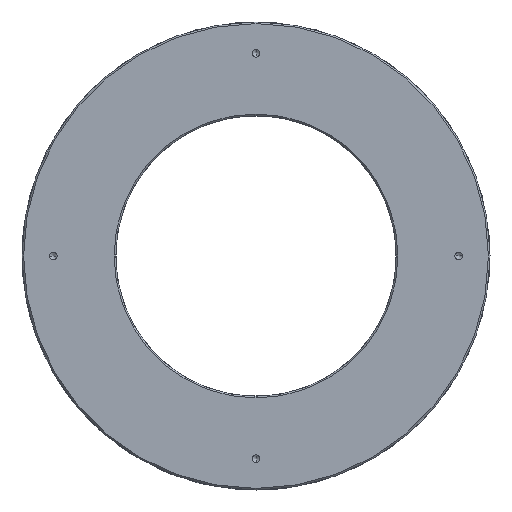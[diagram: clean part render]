
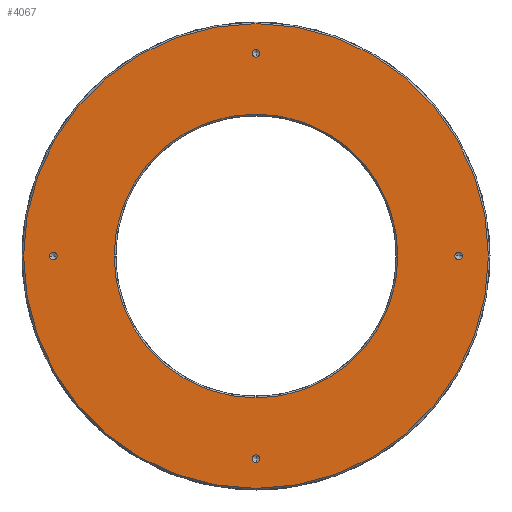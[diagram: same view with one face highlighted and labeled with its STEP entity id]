
A CAD part, front view. The second image highlights one B-rep face of the part: STEP entity #4067.
In plain terms, the highlighted planar face has unit normal (0, -1, 0).
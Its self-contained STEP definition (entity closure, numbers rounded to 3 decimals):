
#39 = EDGE_LOOP ( 'NONE', ( #788, #2501 ) ) ;
#128 = AXIS2_PLACEMENT_3D ( 'NONE', #1806, #1409, #2720 ) ;
#233 = CIRCLE ( 'NONE', #4672, 1.25 ) ;
#314 = CIRCLE ( 'NONE', #4387, 1.25 ) ;
#333 = DIRECTION ( 'NONE',  ( 0., -1., 0. ) ) ;
#461 = CIRCLE ( 'NONE', #1192, 1.25 ) ;
#504 = CIRCLE ( 'NONE', #128, 74.5 ) ;
#539 = VERTEX_POINT ( 'NONE', #4813 ) ;
#549 = PLANE ( 'NONE',  #3408 ) ;
#597 = DIRECTION ( 'NONE',  ( 0., -1., 0. ) ) ;
#751 = DIRECTION ( 'NONE',  ( 1., 0., 0. ) ) ;
#771 = EDGE_CURVE ( 'NONE', #4175, #774, #1448, .T. ) ;
#774 = VERTEX_POINT ( 'NONE', #5110 ) ;
#788 = ORIENTED_EDGE ( 'NONE', *, *, #2898, .F. ) ;
#931 = CARTESIAN_POINT ( 'NONE',  ( -333.909, 266.172, -66.25 ) ) ;
#1113 = EDGE_CURVE ( 'NONE', #4727, #4895, #1638, .T. ) ;
#1160 = ORIENTED_EDGE ( 'NONE', *, *, #3557, .F. ) ;
#1192 = AXIS2_PLACEMENT_3D ( 'NONE', #1281, #333, #3335 ) ;
#1253 = DIRECTION ( 'NONE',  ( 0., -1., 0. ) ) ;
#1281 = CARTESIAN_POINT ( 'NONE',  ( -268.909, 266.172, 0. ) ) ;
#1409 = DIRECTION ( 'NONE',  ( 0., 1., 0. ) ) ;
#1427 = FACE_BOUND ( 'NONE', #5432, .T. ) ;
#1448 = CIRCLE ( 'NONE', #4782, 1.25 ) ;
#1456 = CIRCLE ( 'NONE', #2347, 45.5 ) ;
#1460 = VERTEX_POINT ( 'NONE', #4531 ) ;
#1488 = DIRECTION ( 'NONE',  ( 0., 0., -1. ) ) ;
#1572 = DIRECTION ( 'NONE',  ( 0., 0., -1. ) ) ;
#1574 = CARTESIAN_POINT ( 'NONE',  ( -333.909, 266.172, 65. ) ) ;
#1616 = ORIENTED_EDGE ( 'NONE', *, *, #3632, .F. ) ;
#1638 = CIRCLE ( 'NONE', #2985, 45.5 ) ;
#1674 = CARTESIAN_POINT ( 'NONE',  ( -333.909, 266.172, -74.5 ) ) ;
#1806 = CARTESIAN_POINT ( 'NONE',  ( -333.909, 266.172, 0. ) ) ;
#1809 = EDGE_CURVE ( 'NONE', #3472, #3072, #461, .T. ) ;
#1833 = EDGE_LOOP ( 'NONE', ( #5185, #5295 ) ) ;
#1837 = EDGE_CURVE ( 'NONE', #774, #4175, #3672, .T. ) ;
#1894 = CARTESIAN_POINT ( 'NONE',  ( -398.909, 266.172, 0. ) ) ;
#1932 = CIRCLE ( 'NONE', #5263, 74.5 ) ;
#1999 = ORIENTED_EDGE ( 'NONE', *, *, #1837, .F. ) ;
#2052 = AXIS2_PLACEMENT_3D ( 'NONE', #2318, #4044, #2792 ) ;
#2141 = FACE_BOUND ( 'NONE', #3279, .T. ) ;
#2143 = CIRCLE ( 'NONE', #3493, 1.25 ) ;
#2236 = EDGE_LOOP ( 'NONE', ( #4204, #1999 ) ) ;
#2260 = ORIENTED_EDGE ( 'NONE', *, *, #1809, .F. ) ;
#2270 = DIRECTION ( 'NONE',  ( 0., 0., 1. ) ) ;
#2318 = CARTESIAN_POINT ( 'NONE',  ( -333.909, 266.172, -65. ) ) ;
#2347 = AXIS2_PLACEMENT_3D ( 'NONE', #2848, #4154, #4494 ) ;
#2398 = CARTESIAN_POINT ( 'NONE',  ( -333.909, 266.172, 63.75 ) ) ;
#2403 = CARTESIAN_POINT ( 'NONE',  ( -333.909, 266.172, 0. ) ) ;
#2501 = ORIENTED_EDGE ( 'NONE', *, *, #5037, .F. ) ;
#2557 = FACE_BOUND ( 'NONE', #2236, .T. ) ;
#2566 = DIRECTION ( 'NONE',  ( 1., 0., 0. ) ) ;
#2720 = DIRECTION ( 'NONE',  ( 0., 0., 1. ) ) ;
#2731 = DIRECTION ( 'NONE',  ( 0., 0., 1. ) ) ;
#2759 = CARTESIAN_POINT ( 'NONE',  ( -333.909, 266.172, -65. ) ) ;
#2783 = EDGE_CURVE ( 'NONE', #3054, #539, #2143, .T. ) ;
#2792 = DIRECTION ( 'NONE',  ( 0., 0., 1. ) ) ;
#2848 = CARTESIAN_POINT ( 'NONE',  ( -333.909, 266.172, 0. ) ) ;
#2855 = CARTESIAN_POINT ( 'NONE',  ( -333.909, 266.172, 45.5 ) ) ;
#2898 = EDGE_CURVE ( 'NONE', #1460, #3727, #4219, .T. ) ;
#2985 = AXIS2_PLACEMENT_3D ( 'NONE', #4036, #4545, #5299 ) ;
#3018 = CARTESIAN_POINT ( 'NONE',  ( -270.159, 266.172, 0. ) ) ;
#3054 = VERTEX_POINT ( 'NONE', #2398 ) ;
#3072 = VERTEX_POINT ( 'NONE', #4998 ) ;
#3087 = FACE_BOUND ( 'NONE', #1833, .T. ) ;
#3155 = EDGE_LOOP ( 'NONE', ( #1616, #4383 ) ) ;
#3279 = EDGE_LOOP ( 'NONE', ( #2260, #1160 ) ) ;
#3296 = ORIENTED_EDGE ( 'NONE', *, *, #5070, .T. ) ;
#3335 = DIRECTION ( 'NONE',  ( -1., 0., 0. ) ) ;
#3346 = DIRECTION ( 'NONE',  ( 0., -1., 0. ) ) ;
#3391 = ORIENTED_EDGE ( 'NONE', *, *, #1113, .T. ) ;
#3408 = AXIS2_PLACEMENT_3D ( 'NONE', #4866, #5281, #2270 ) ;
#3439 = CIRCLE ( 'NONE', #5508, 1.25 ) ;
#3472 = VERTEX_POINT ( 'NONE', #3018 ) ;
#3493 = AXIS2_PLACEMENT_3D ( 'NONE', #4561, #3346, #1572 ) ;
#3557 = EDGE_CURVE ( 'NONE', #3072, #3472, #314, .T. ) ;
#3632 = EDGE_CURVE ( 'NONE', #5453, #5267, #504, .T. ) ;
#3672 = CIRCLE ( 'NONE', #4217, 1.25 ) ;
#3727 = VERTEX_POINT ( 'NONE', #931 ) ;
#3841 = CARTESIAN_POINT ( 'NONE',  ( -268.909, 266.172, 0. ) ) ;
#4036 = CARTESIAN_POINT ( 'NONE',  ( -333.909, 266.172, 0. ) ) ;
#4044 = DIRECTION ( 'NONE',  ( 0., -1., 0. ) ) ;
#4047 = DIRECTION ( 'NONE',  ( 0., 0., 1. ) ) ;
#4067 = ADVANCED_FACE ( 'NONE', ( #2557, #4714, #2141, #3087, #4816, #1427 ), #549, .F. ) ;
#4079 = DIRECTION ( 'NONE',  ( 0., -1., 0. ) ) ;
#4154 = DIRECTION ( 'NONE',  ( 0., 1., 0. ) ) ;
#4175 = VERTEX_POINT ( 'NONE', #5040 ) ;
#4204 = ORIENTED_EDGE ( 'NONE', *, *, #771, .F. ) ;
#4217 = AXIS2_PLACEMENT_3D ( 'NONE', #5107, #4638, #2566 ) ;
#4219 = CIRCLE ( 'NONE', #2052, 1.25 ) ;
#4292 = EDGE_CURVE ( 'NONE', #539, #3054, #233, .T. ) ;
#4383 = ORIENTED_EDGE ( 'NONE', *, *, #4673, .F. ) ;
#4387 = AXIS2_PLACEMENT_3D ( 'NONE', #3841, #1253, #4770 ) ;
#4494 = DIRECTION ( 'NONE',  ( 0., 0., 1. ) ) ;
#4531 = CARTESIAN_POINT ( 'NONE',  ( -333.909, 266.172, -63.75 ) ) ;
#4545 = DIRECTION ( 'NONE',  ( 0., 1., 0. ) ) ;
#4561 = CARTESIAN_POINT ( 'NONE',  ( -333.909, 266.172, 65. ) ) ;
#4638 = DIRECTION ( 'NONE',  ( 0., -1., 0. ) ) ;
#4672 = AXIS2_PLACEMENT_3D ( 'NONE', #1574, #4079, #1488 ) ;
#4673 = EDGE_CURVE ( 'NONE', #5267, #5453, #1932, .T. ) ;
#4714 = FACE_BOUND ( 'NONE', #39, .T. ) ;
#4727 = VERTEX_POINT ( 'NONE', #2855 ) ;
#4770 = DIRECTION ( 'NONE',  ( -1., 0., 0. ) ) ;
#4782 = AXIS2_PLACEMENT_3D ( 'NONE', #1894, #5480, #751 ) ;
#4813 = CARTESIAN_POINT ( 'NONE',  ( -333.909, 266.172, 66.25 ) ) ;
#4816 = FACE_OUTER_BOUND ( 'NONE', #3155, .T. ) ;
#4866 = CARTESIAN_POINT ( 'NONE',  ( 0., 266.172, 0. ) ) ;
#4895 = VERTEX_POINT ( 'NONE', #5118 ) ;
#4998 = CARTESIAN_POINT ( 'NONE',  ( -267.659, 266.172, 0. ) ) ;
#5037 = EDGE_CURVE ( 'NONE', #3727, #1460, #3439, .T. ) ;
#5039 = CARTESIAN_POINT ( 'NONE',  ( -333.909, 266.172, 74.5 ) ) ;
#5040 = CARTESIAN_POINT ( 'NONE',  ( -397.659, 266.172, 0. ) ) ;
#5070 = EDGE_CURVE ( 'NONE', #4895, #4727, #1456, .T. ) ;
#5107 = CARTESIAN_POINT ( 'NONE',  ( -398.909, 266.172, 0. ) ) ;
#5110 = CARTESIAN_POINT ( 'NONE',  ( -400.159, 266.172, 0. ) ) ;
#5118 = CARTESIAN_POINT ( 'NONE',  ( -333.909, 266.172, -45.5 ) ) ;
#5185 = ORIENTED_EDGE ( 'NONE', *, *, #2783, .F. ) ;
#5263 = AXIS2_PLACEMENT_3D ( 'NONE', #2403, #5368, #4047 ) ;
#5267 = VERTEX_POINT ( 'NONE', #1674 ) ;
#5281 = DIRECTION ( 'NONE',  ( 0., 1., 0. ) ) ;
#5295 = ORIENTED_EDGE ( 'NONE', *, *, #4292, .F. ) ;
#5299 = DIRECTION ( 'NONE',  ( 0., 0., 1. ) ) ;
#5368 = DIRECTION ( 'NONE',  ( 0., 1., 0. ) ) ;
#5432 = EDGE_LOOP ( 'NONE', ( #3296, #3391 ) ) ;
#5453 = VERTEX_POINT ( 'NONE', #5039 ) ;
#5480 = DIRECTION ( 'NONE',  ( 0., -1., 0. ) ) ;
#5508 = AXIS2_PLACEMENT_3D ( 'NONE', #2759, #597, #2731 ) ;
